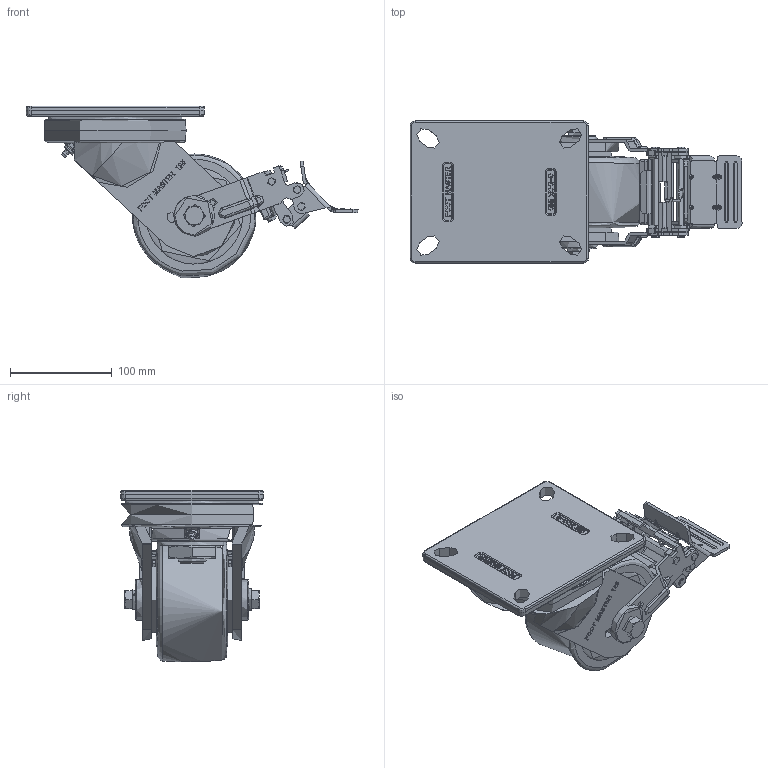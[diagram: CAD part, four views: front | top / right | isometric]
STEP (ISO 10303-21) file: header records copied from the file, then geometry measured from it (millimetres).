
FILE_DESCRIPTION(/* description */ (''),/* implementation_level */ '2;1');
FILE_NAME(/* name */ 'Y:\1.기술연구소\2.연구개발 진행중\133.고하중캐스터 브레이크 타입 변경건_2025.11.03\1.도면\4.홈페이지용 도면\01. 3D\GXT-125 SERIES\GXT-125-STEP\GXT-125-BSF-HUD-TB.stp',/* time_stamp */ '2026-07-22T10:55:37+09:00',/* author */ ('장용하'),/* organization */ (''),/* preprocessor_version */ 'ST-DEVELOPER v18.1',/* originating_system */ 'Autodesk Inventor 2021',/* authorisation */ '');
FILE_SCHEMA (('CONFIG_CONTROL_DESIGN'));
Length unit declared in the file: millimetre
Products named in the file (1): GXT-125-BSF-HUD-TB
Bounding box: 325.64 x 140 x 168.5 mm (x, y, z)
Topology: 1 solids, 5 shells, 1749 faces, 4673 edges, 3023 vertices
Faces by surface type: plane 725, bspline 475, cylinder 437, torus 68, cone 32, sphere 12
Full cylindrical faces by diameter (mm): 2 x7, 4 x6, 6 x2, 6.2 x14, 6.3 x2, 6.5 x4, 6.6 x2, 6.8 x4, 8 x6, 8.5 x4, 12 x2, 12.5 x2, 13 x2, 30 x1, 40 x2, 62.5 x1, 65 x2, 131.086 x1
Entity records: 60447 total; most frequent: CARTESIAN_POINT 18833, ORIENTED_EDGE 9348, DIRECTION 7598, EDGE_CURVE 4674, VERTEX_POINT 3023, AXIS2_PLACEMENT_3D 2591, LINE 2416, VECTOR 2416
